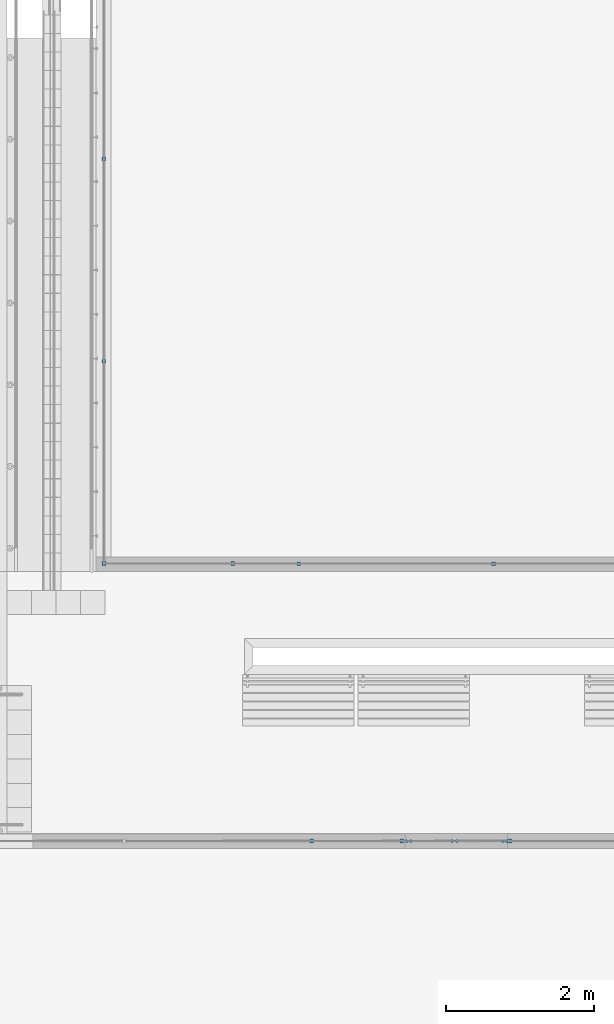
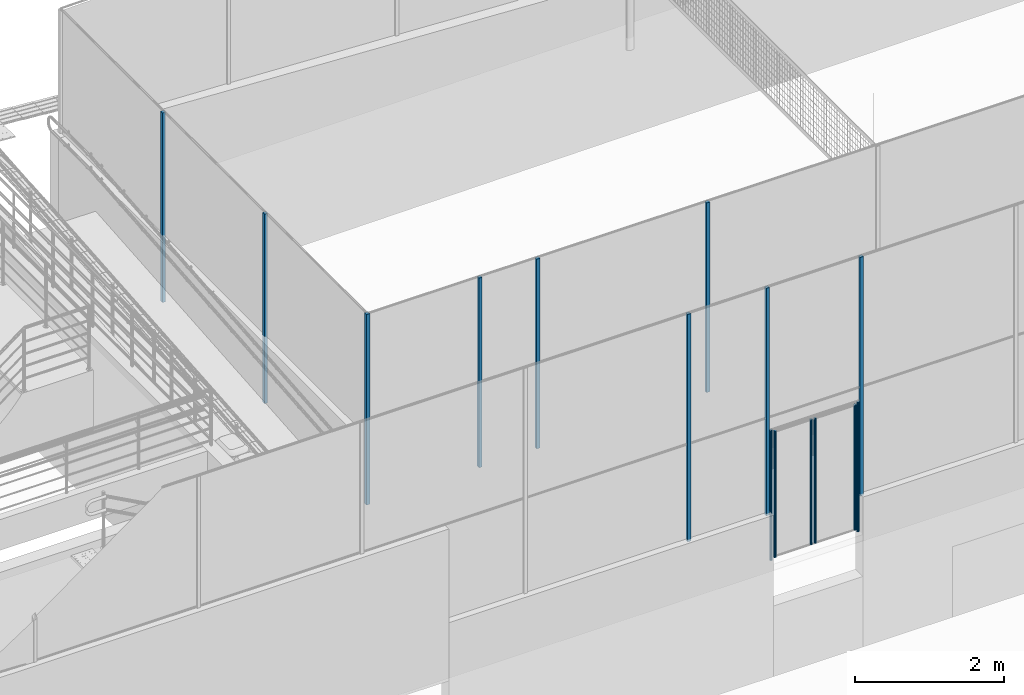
# One storey, part 5 of 237: 15 columns.
"""IFC2X3 building model written with IfcOpenShell, lengths in millimetres."""

from ifc_helpers import new_model, entity, si_unit, converted_unit, derived_unit, money_unit, direction, frame, origin_with_axes, origin_2d_with_axis, place, context, subcontext, project, spatial, rectangle, circle, extrude, material, type_object, element, save


model = new_model("IFC2X3")

# Units and contexts
model_context = context("Model", 3, precision=0.01, world=origin_with_axes(), true_north=direction((0.0, 1.0)))
body_context = subcontext(model_context, "Body", "Model", "MODEL_VIEW")
ifc_project = project(units=[si_unit("LENGTHUNIT", "METRE", prefix="MILLI"), si_unit("AREAUNIT", "SQUARE_METRE"), si_unit("VOLUMEUNIT", "CUBIC_METRE"), converted_unit("PLANEANGLEUNIT", "DEGREE", entity("IfcPlaneAngleMeasure", 0.0174532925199), si_unit("PLANEANGLEUNIT", "RADIAN"), dimensions=[0, 0, 0, 0, 0, 0, 0]), money_unit("USD"), converted_unit("TIMEUNIT", "Year", entity("IfcTimeMeasure", 31556926.0), si_unit("TIMEUNIT", "SECOND"), dimensions=[0, 0, 1, 0, 0, 0, 0]), si_unit("MASSUNIT", "GRAM", prefix="KILO"), si_unit("THERMODYNAMICTEMPERATUREUNIT", "DEGREE_CELSIUS"), si_unit("LUMINOUSINTENSITYUNIT", "LUMEN"), si_unit("ENERGYUNIT", "JOULE", prefix="MEGA"), derived_unit("THERMALCONDUCTANCEUNIT", [(si_unit("POWERUNIT", "WATT"), 1), (si_unit("LENGTHUNIT", "METRE"), -1), (si_unit("THERMODYNAMICTEMPERATUREUNIT", "KELVIN"), -1)]), derived_unit("SPECIFICHEATCAPACITYUNIT", [(si_unit("ENERGYUNIT", "JOULE"), 1), (si_unit("MASSUNIT", "GRAM", prefix="KILO"), -1), (si_unit("THERMODYNAMICTEMPERATUREUNIT", "KELVIN"), -1)]), derived_unit("MASSDENSITYUNIT", [(si_unit("MASSUNIT", "GRAM", prefix="KILO"), 1), (si_unit("VOLUMEUNIT", "CUBIC_METRE"), -1)])], contexts=[model_context])

# Site, building, storey
site_placement = place(None, origin_with_axes())
site = spatial("IfcSite", under=ifc_project, at=site_placement, Name="Local", CompositionType="ELEMENT")
building_placement = place(site_placement, origin_with_axes())
building = spatial("IfcBuilding", under=site, at=building_placement, Name="Construção", CompositionType="ELEMENT")
storey_placement = place(building_placement, origin_with_axes())
storey = spatial("IfcBuildingStorey", under=building, at=storey_placement, Name="Pavimento Térreo", CompositionType="ELEMENT", Elevation=0.0)

# Columns
ifc_material = material(Name="Alumínio")
column_type_1 = type_object("IfcColumnType", Name="Alumínio 50 x 50", PredefinedType="NOTDEFINED")
column_1_placement = place(storey_placement, frame((72288.9059239, 23558.7287297, -2742.28516207), z_axis=(0.0, 0.0, 1.0), x_axis=(1.0, 0.0, 0.0)))
element("IfcColumn", 1, at=column_1_placement, inside=storey, type_object=column_type_1, material=ifc_material, Name="Pil-016", context=body_context, shape_type="SweptSolid", body=[
    extrude(rectangle(XDim=50.0, YDim=50.0, at=origin_2d_with_axis()), origin_with_axes(), (0.0, 0.0, 1.0), 3718.70739897),
])
column_2_placement = place(storey_placement, frame((73741.0621414, 23558.4725499, -2930.3359174), z_axis=(0.0, 0.0, 1.0), x_axis=(1.0, 0.0, 0.0)))
element("IfcColumn", 2, at=column_2_placement, inside=storey, type_object=column_type_1, material=ifc_material, Name="Pil-016", context=body_context, shape_type="SweptSolid", body=[
    extrude(rectangle(XDim=50.0, YDim=50.0, at=origin_2d_with_axis()), origin_with_axes(), (0.0, 0.0, 1.0), 3906.75815429),
])
column_3_placement = place(storey_placement, frame((71073.3559608, 23558.4725499, -2742.28516207), z_axis=(0.0, 0.0, 1.0), x_axis=(1.0, 0.0, 0.0)))
element("IfcColumn", 3, at=column_3_placement, inside=storey, type_object=column_type_1, material=ifc_material, Name="Pil-016", context=body_context, shape_type="SweptSolid", body=[
    extrude(rectangle(XDim=50.0, YDim=50.0, at=origin_2d_with_axis()), origin_with_axes(), (0.0, 0.0, 1.0), 3718.70739897),
])
for number, where, z_axis, x_axis, name in (
    (4, (68265.5334468, 32762.3554417, -3427.40377037), (0.0, 0.0, 1.0), (1.0, 0.0, 0.0), "Pil-016"),
    (5, (70897.6137084, 27299.0888476, -3427.40377037), (0.0, 0.0, 1.0), (1.0, 0.0, 0.0), "Pil-016"),
    (6, (68267.526479, 30032.2419632, -3427.40377037), (0.0, 0.0, 1.0), (1.0, 0.0, 0.0), "Pil-016"),
):
    element("IfcColumn", number, at=place(storey_placement, frame(where, z_axis=z_axis, x_axis=x_axis)), inside=storey, type_object=column_type_1, material=ifc_material, Name=name, context=body_context, shape_type="SweptSolid", body=[
        extrude(rectangle(XDim=50.0, YDim=50.0, at=origin_2d_with_axis()), origin_with_axes(), (0.0, 0.0, 1.0), 3100.0),
    ])
column_4_placement = place(storey_placement, frame((70007.4437725, 27302.1284425, -3427.40377037), z_axis=(0.0, 0.0, 1.0), x_axis=(1.0, 0.0, 0.0)))
element("IfcColumn", 7, at=column_4_placement, inside=storey, type_object=column_type_1, material=ifc_material, Name="Pil-016", context=body_context, shape_type="SweptSolid", body=[
    extrude(rectangle(XDim=50.0, YDim=50.0, at=origin_2d_with_axis()), origin_with_axes(), (0.0, 0.0, 1.0), 3100.19325861),
])
column_5_placement = place(storey_placement, frame((73526.39237, 27299.0888476, -3427.40377037), z_axis=(0.0, 0.0, 1.0), x_axis=(1.0, 0.0, 0.0)))
element("IfcColumn", 8, at=column_5_placement, inside=storey, type_object=column_type_1, material=ifc_material, Name="Pil-016", context=body_context, shape_type="SweptSolid", body=[
    extrude(rectangle(XDim=50.0, YDim=50.0, at=origin_2d_with_axis()), origin_with_axes(), (0.0, 0.0, 1.0), 3100.0),
])
column_6_placement = place(storey_placement, frame((68268.8350468, 27302.1284846, -3427.40377037), z_axis=(0.0, 0.0, 1.0), x_axis=(1.0, 0.0, 0.0)))
element("IfcColumn", 9, at=column_6_placement, inside=storey, type_object=column_type_1, material=ifc_material, Name="Pil-016", context=body_context, shape_type="SweptSolid", body=[
    extrude(rectangle(XDim=50.0, YDim=50.0, at=origin_2d_with_axis()), origin_with_axes(), (0.0, 0.0, 1.0), 3115.19325861),
])
column_type_2 = type_object("IfcColumnType", Name="Alumínio D39", PredefinedType="NOTDEFINED")
column_7_placement = place(storey_placement, frame((73647.7432377, 23558.3695514, -3465.55389455), z_axis=(0.0, 0.0, 1.0), x_axis=(1.0, 0.0, 0.0)))
element("IfcColumn", 10, at=column_7_placement, inside=storey, type_object=column_type_2, material=ifc_material, Name="Pil-016", context=body_context, shape_type="SweptSolid", body=[
    extrude(circle(Radius=19.5017039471, at=origin_2d_with_axis()), origin_with_axes(), (0.0, 0.0, 1.0), 2046.70080272),
])
column_8_placement = place(storey_placement, frame((73694.2762081, 23558.3695514, -3507.05726823), z_axis=(0.0, 0.0, 1.0), x_axis=(1.0, 0.0, 0.0)))
element("IfcColumn", 11, at=column_8_placement, inside=storey, type_object=column_type_2, material=ifc_material, Name="Pil-016", context=body_context, shape_type="SweptSolid", body=[
    extrude(circle(Radius=19.5017039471, at=origin_2d_with_axis()), origin_with_axes(), (0.0, 0.0, 1.0), 2116.50337425),
])
for number, where, z_axis, x_axis, name in (
    (12, (73031.7925118, 23558.3695514, -3465.55389455), (0.0, 0.0, 1.0), (1.0, 0.0, 0.0), "Pil-016"),
    (13, (72970.5059856, 23558.3695514, -3465.55389455), (0.0, 0.0, 1.0), (1.0, 0.0, 0.0), "Pil-016"),
):
    element("IfcColumn", number, at=place(storey_placement, frame(where, z_axis=z_axis, x_axis=x_axis)), inside=storey, type_object=column_type_2, material=ifc_material, Name=name, context=body_context, shape_type="SweptSolid", body=[
        extrude(circle(Radius=19.5017039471, at=origin_2d_with_axis()), origin_with_axes(), (0.0, 0.0, 1.0), 2046.70080272),
    ])
column_9_placement = place(storey_placement, frame((72351.7349312, 23558.3695514, -3507.05726823), z_axis=(0.0, 0.0, 1.0), x_axis=(1.0, 0.0, 0.0)))
element("IfcColumn", 14, at=column_9_placement, inside=storey, type_object=column_type_2, material=ifc_material, Name="Pil-016", context=body_context, shape_type="SweptSolid", body=[
    extrude(circle(Radius=19.5017039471, at=origin_2d_with_axis()), origin_with_axes(), (0.0, 0.0, 1.0), 2132.96170799),
])
column_10_placement = place(storey_placement, frame((72411.1489655, 23558.3695514, -3479.12326303), z_axis=(0.0, 0.0, 1.0), x_axis=(1.0, 0.0, 0.0)))
element("IfcColumn", 15, at=column_10_placement, inside=storey, type_object=column_type_2, material=ifc_material, Name="Pil-016", context=body_context, shape_type="SweptSolid", body=[
    extrude(circle(Radius=19.5017039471, at=origin_2d_with_axis()), origin_with_axes(), (0.0, 0.0, 1.0), 2066.65501404),
])

save(model, "model.ifc")
